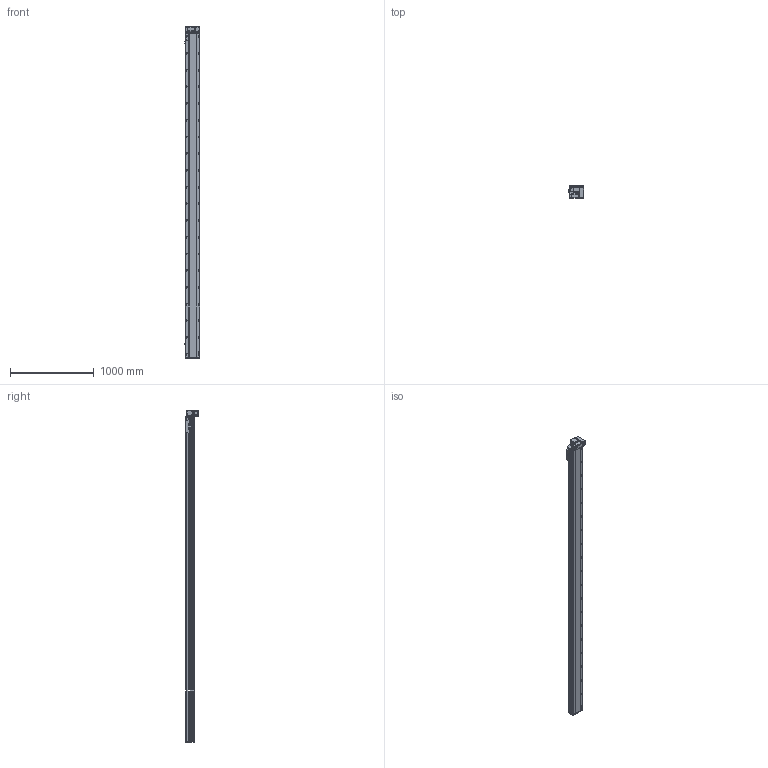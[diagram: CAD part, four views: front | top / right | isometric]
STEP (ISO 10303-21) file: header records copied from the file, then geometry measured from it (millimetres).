
FILE_DESCRIPTION (( 'STEP AP214' ), '1' );
FILE_NAME ('RTB17S-XX-3600-RM-M40-C4.STEP', '2025-12-11T08:40:09', ( '' ), ( '' ), 'SwSTEP 2.0', 'SolidWorks 2018', '' );
FILE_SCHEMA (( 'AUTOMOTIVE_DESIGN' ));
Length unit declared in the file: millimetre
Products named in the file (14): 400W侜督萇儂^RTB17S-XX-XX-RM-M40-C4; RTB14-L-018P^RTB17S-RM-々湍釱蚾饜-400W_RTB17S-XX-XX-RM-M40-C4; RTB17S-RM-々湍釱蚾饜-400W^RTB17S-XX-XX-RM-M40-C4; RTB14-L-005P--轴承塑胶压盖^RTB17S-RM-皮带座装配-400W_RTB17S-XX-XX-RM-M40-C4; RTB14-L-008-M20--萇儂啣^RTB17S-RM-々湍釱蚾饜-400W_RTB17S-XX-XX-RM-M40-C4; RTB17S-L-007奻裔^RTB17S-XX-XX-RM-M40-C4; RTB17S-L-004佪裝蹟譫蟀諉釱^RTB17S-XX-XX-RM-M40-C4; RTB14-L-017P^RTB17S-RM-々湍釱蚾饜-400W_RTB17S-XX-XX-RM-M40-C4; RTH13-BL-012覜茼え俋离^RTB17S-XX-XX-RM-M40-C4; OMRON EE-SX672 传感器^RTB17S-XX-XX-RM-M40-C4; RTB17S-L-001耜醱啣^RTB17S-XX-XX-RM-M40-C4; RTB17S-L-014-T20--々湍釱^RTB17S-RM-々湍釱蚾饜-400W_RTB17S-XX-XX-RM-M40-C4; RTB17-R-011菁釱^RTB17S-XX-XX-RM-M40-C4; RTB17S-XX-3600-RM-M40-C4
Assembly tree (16 placements, depth 3):
  RTB17S-XX-3600-RM-M40-C4
    RTB17-R-011菁釱^RTB17S-XX-XX-RM-M40-C4
    RTB17S-L-007奻裔^RTB17S-XX-XX-RM-M40-C4
    OMRON EE-SX672 传感器^RTB17S-XX-XX-RM-M40-C4  x3
    RTB17S-L-001耜醱啣^RTB17S-XX-XX-RM-M40-C4
    400W侜督萇儂^RTB17S-XX-XX-RM-M40-C4
    RTB17S-L-004佪裝蹟譫蟀諉釱^RTB17S-XX-XX-RM-M40-C4
    RTH13-BL-012覜茼え俋离^RTB17S-XX-XX-RM-M40-C4
    RTB17S-RM-々湍釱蚾饜-400W^RTB17S-XX-XX-RM-M40-C4
      RTB17S-L-014-T20--々湍釱^RTB17S-RM-々湍釱蚾饜-400W_RTB17S-XX-XX-RM-M40-C4
      RTB14-L-005P--轴承塑胶压盖^RTB17S-RM-皮带座装配-400W_RTB17S-XX-XX-RM-M40-C4
      RTB14-L-008-M20--萇儂啣^RTB17S-RM-々湍釱蚾饜-400W_RTB17S-XX-XX-RM-M40-C4
      RTB14-L-017P^RTB17S-RM-々湍釱蚾饜-400W_RTB17S-XX-XX-RM-M40-C4  x2
      RTB14-L-018P^RTB17S-RM-々湍釱蚾饜-400W_RTB17S-XX-XX-RM-M40-C4
Bounding box: 183.5 x 156.5 x 3972.5 mm (x, y, z)
Volume: 33579738.6 mm3; surface area: 3809323.1 mm2
Topology: 15 solids, 15 shells, 2413 faces, 6789 edges, 4437 vertices
Faces by surface type: plane 1094, cylinder 871, bspline 301, cone 139, torus 8
Entity records: 72617 total; most frequent: CARTESIAN_POINT 20794, ORIENTED_EDGE 10422, DIRECTION 9566, EDGE_CURVE 5211, VERTEX_POINT 3425, AXIS2_PLACEMENT_3D 3355, VECTOR 2856, LINE 2856
